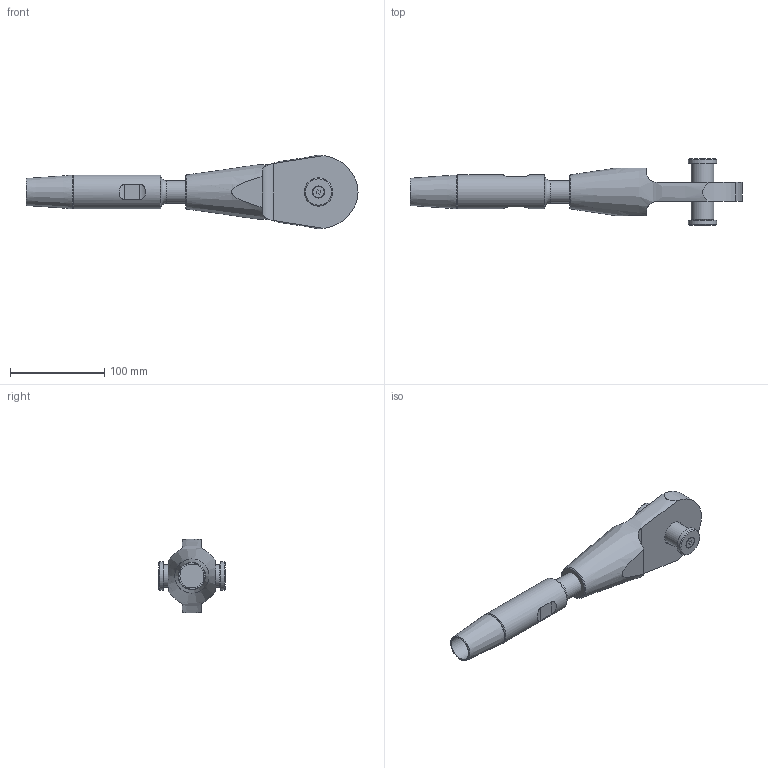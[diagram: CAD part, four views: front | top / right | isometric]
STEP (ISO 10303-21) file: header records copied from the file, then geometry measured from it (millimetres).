
FILE_DESCRIPTION(/* description */ (''),/* implementation_level */ '2;1');
FILE_NAME(/* name */ 'C:\Vault_WS\Designs\SB\01-PX\Verzinkt\ZSS\520 - Zusambau-OES-ADA\520-024-OES-ADA.stp',/* time_stamp */ '2020-10-07T15:34:28+02:00',/* author */ ('schwarz'),/* organization */ (''),/* preprocessor_version */ 'ST-DEVELOPER v18.1',/* originating_system */ 'Autodesk Inventor 2020',/* authorisation */ '');
FILE_SCHEMA (('AUTOMOTIVE_DESIGN { 1 0 10303 214 3 1 1 }'));
Length unit declared in the file: millimetre
Products named in the file (1): 520-024-OES-ADA-Kunde
Bounding box: 353 x 70.72 x 78.15 mm (x, y, z)
Volume: 459797.8 mm3; surface area: 69755.6 mm2
Topology: 6 solids, 6 shells, 63 faces, 151 edges, 105 vertices
Faces by surface type: plane 28, cylinder 20, cone 12, torus 3
Full cylindrical faces by diameter (mm): 4.917 x1, 6 x1, 6.8 x1, 12 x1, 24 x2, 25.5 x1, 26 x1, 30 x2, 36 x1
Entity records: 2145 total; most frequent: CARTESIAN_POINT 509, DIRECTION 325, ORIENTED_EDGE 300, EDGE_CURVE 150, AXIS2_PLACEMENT_3D 134, VERTEX_POINT 105, EDGE_LOOP 73, CIRCLE 70
